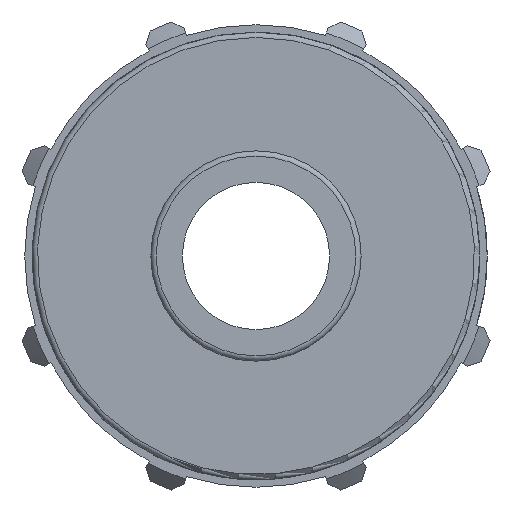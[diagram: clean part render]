
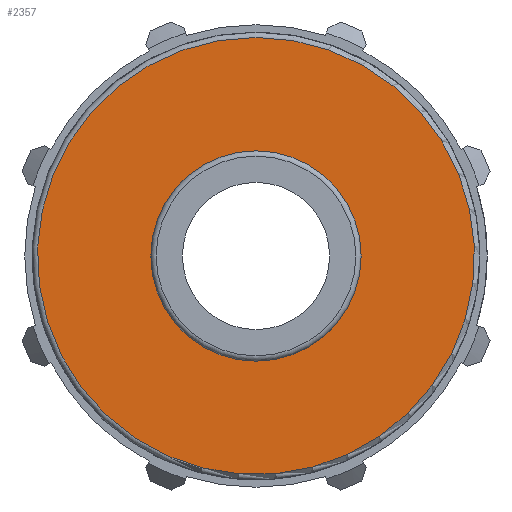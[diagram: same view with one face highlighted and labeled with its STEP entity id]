
A CAD part, left-side view. The second image highlights one B-rep face of the part: STEP entity #2357.
In plain terms, the highlighted planar face has unit normal (-1, 0, 0).
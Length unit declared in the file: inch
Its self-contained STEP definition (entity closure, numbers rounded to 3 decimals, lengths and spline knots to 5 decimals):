
#459=FACE_BOUND('',#683,.T.);
#472=PLANE('',#2549);
#551=FACE_OUTER_BOUND('',#682,.T.);
#682=EDGE_LOOP('',(#1626,#1627));
#683=EDGE_LOOP('',(#1628,#1629));
#797=CIRCLE('',#2489,0.941);
#798=CIRCLE('',#2490,0.941);
#835=CIRCLE('',#2547,1.95518);
#836=CIRCLE('',#2548,1.95518);
#920=VERTEX_POINT('',#3411);
#921=VERTEX_POINT('',#3412);
#987=VERTEX_POINT('',#3801);
#988=VERTEX_POINT('',#3803);
#1158=EDGE_CURVE('',#920,#921,#797,.T.);
#1159=EDGE_CURVE('',#921,#920,#798,.T.);
#1246=EDGE_CURVE('',#987,#988,#835,.T.);
#1247=EDGE_CURVE('',#988,#987,#836,.T.);
#1626=ORIENTED_EDGE('',*,*,#1247,.F.);
#1627=ORIENTED_EDGE('',*,*,#1246,.F.);
#1628=ORIENTED_EDGE('',*,*,#1158,.T.);
#1629=ORIENTED_EDGE('',*,*,#1159,.T.);
#2357=ADVANCED_FACE('',(#551,#459),#472,.T.);
#2489=AXIS2_PLACEMENT_3D('',#3413,#2750,#2751);
#2490=AXIS2_PLACEMENT_3D('',#3414,#2752,#2753);
#2547=AXIS2_PLACEMENT_3D('',#3804,#2892,#2893);
#2548=AXIS2_PLACEMENT_3D('',#3805,#2894,#2895);
#2549=AXIS2_PLACEMENT_3D('',#3806,#2896,#2897);
#2750=DIRECTION('center_axis',(1.,0.,0.));
#2751=DIRECTION('ref_axis',(0.,0.,-1.));
#2752=DIRECTION('center_axis',(1.,0.,0.));
#2753=DIRECTION('ref_axis',(0.,0.,-1.));
#2892=DIRECTION('center_axis',(1.,0.,0.));
#2893=DIRECTION('ref_axis',(0.,-0.552,0.834));
#2894=DIRECTION('center_axis',(1.,0.,0.));
#2895=DIRECTION('ref_axis',(0.,-0.552,0.834));
#2896=DIRECTION('center_axis',(-1.,0.,0.));
#2897=DIRECTION('ref_axis',(0.,0.,1.));
#3411=CARTESIAN_POINT('',(0.87,0.941,0.));
#3412=CARTESIAN_POINT('',(0.87,-0.941,0.));
#3413=CARTESIAN_POINT('Origin',(0.87,0.,0.));
#3414=CARTESIAN_POINT('Origin',(0.87,0.,0.));
#3801=CARTESIAN_POINT('',(0.87,0.,1.95518));
#3803=CARTESIAN_POINT('',(0.87,1.07871,-1.63068));
#3804=CARTESIAN_POINT('Origin',(0.87,0.,0.));
#3805=CARTESIAN_POINT('Origin',(0.87,0.,0.));
#3806=CARTESIAN_POINT('Origin',(0.87,2.0025,0.));
